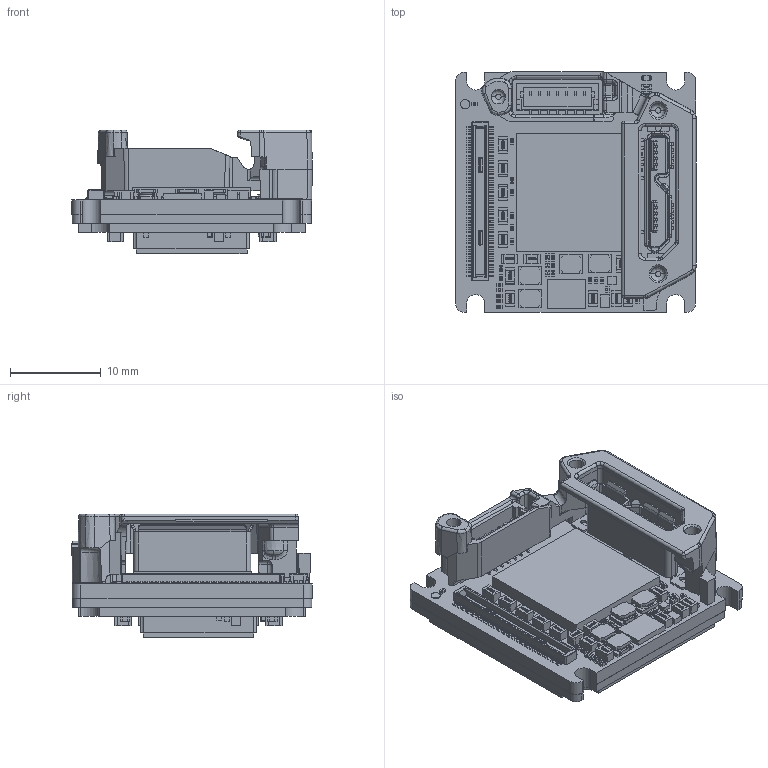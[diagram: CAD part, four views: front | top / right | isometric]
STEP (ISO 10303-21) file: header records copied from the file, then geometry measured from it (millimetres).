
FILE_DESCRIPTION (( 'STEP AP214' ), '1' );
FILE_NAME ('Alvium-USB180-Bare-Board-E2VEV76Cx6x.STEP', '2022-10-24T10:57:30', ( '' ), ( '' ), 'SwSTEP 2.0', 'SolidWorks 2021', '' );
FILE_SCHEMA (( 'AUTOMOTIVE_DESIGN' ));
Length unit declared in the file: millimetre
Products named in the file (1): Alvium-USB180-Bare-Board-E2VEV76Cx6x
Bounding box: 26.48 x 26.45 x 13.64 mm (x, y, z)
Volume: 3683.5 mm3; surface area: 5581.5 mm2
Topology: 144 solids, 144 shells, 8117 faces, 20828 edges, 13485 vertices
Faces by surface type: plane 4310, bspline 2872, cylinder 815, cone 46, torus 40, sphere 34
Entity records: 493460 total; most frequent: CARTESIAN_POINT 225105, ORIENTED_EDGE 41606, DIRECTION 27111, EDGE_CURVE 20803, VERTEX_POINT 13485, LINE 13193, VECTOR 13193, EDGE_LOOP 8644
